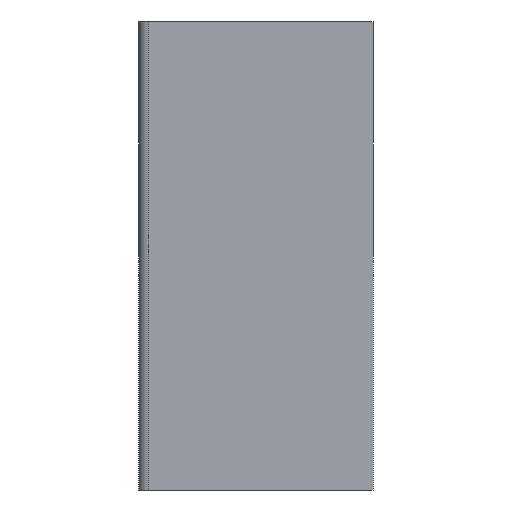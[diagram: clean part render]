
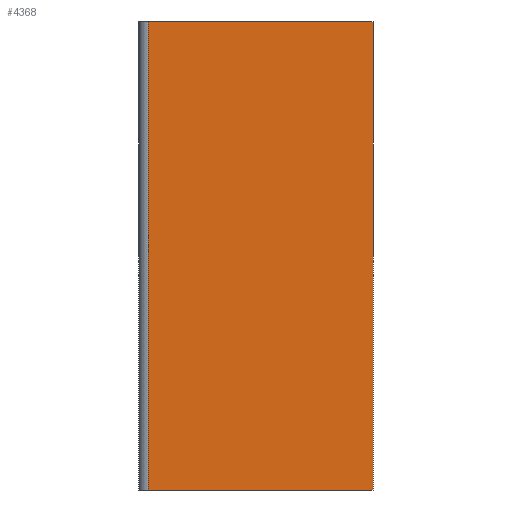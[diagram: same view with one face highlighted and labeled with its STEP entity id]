
A CAD part, left-side view. The second image highlights one B-rep face of the part: STEP entity #4368.
In plain terms, the highlighted planar face has unit normal (-1, 0, 0).
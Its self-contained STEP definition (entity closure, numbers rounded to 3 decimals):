
#9 = LINE ( 'NONE', #10, #11 ) ;
#10 = CARTESIAN_POINT ( 'NONE',  ( -122.5, 0., 50. ) ) ;
#11 = VECTOR ( 'NONE', #12, 1000. ) ;
#12 = DIRECTION ( 'NONE',  ( 0., 0., -1. ) ) ;
#2474 = CARTESIAN_POINT ( 'NONE',  ( -122.5, 24., 0. ) ) ;
#3127 = VERTEX_POINT ( 'NONE', #6954 ) ;
#3161 = EDGE_CURVE ( 'NONE', #3127, #3835, #7080, .T. ) ;
#3835 = VERTEX_POINT ( 'NONE', #2474 ) ;
#4081 = ORIENTED_EDGE ( 'NONE', *, *, #4538, .F. ) ;
#4163 = VERTEX_POINT ( 'NONE', #5805 ) ;
#4196 = EDGE_CURVE ( 'NONE', #3835, #4163, #5904, .T. ) ;
#4244 = ORIENTED_EDGE ( 'NONE', *, *, #4196, .T. ) ;
#4308 = ORIENTED_EDGE ( 'NONE', *, *, #3161, .T. ) ;
#4340 = EDGE_LOOP ( 'NONE', ( #4244, #4081, #4426, #4308 ) ) ;
#4368 = ADVANCED_FACE ( 'NONE', ( #6569 ), #6570, .F. ) ;
#4379 = EDGE_CURVE ( 'NONE', #3127, #4505, #6598, .T. ) ;
#4426 = ORIENTED_EDGE ( 'NONE', *, *, #4379, .F. ) ;
#4505 = VERTEX_POINT ( 'NONE', #7087 ) ;
#4538 = EDGE_CURVE ( 'NONE', #4505, #4163, #9, .T. ) ;
#5805 = CARTESIAN_POINT ( 'NONE',  ( -122.5, 0., 0. ) ) ;
#5904 = LINE ( 'NONE', #5905, #5906 ) ;
#5905 = CARTESIAN_POINT ( 'NONE',  ( -122.5, 0., 0. ) ) ;
#5906 = VECTOR ( 'NONE', #5907, 1000. ) ;
#5907 = DIRECTION ( 'NONE',  ( 0., -1., 0. ) ) ;
#6569 = FACE_OUTER_BOUND ( 'NONE', #4340, .T. ) ;
#6570 = PLANE ( 'NONE',  #6571 ) ;
#6571 = AXIS2_PLACEMENT_3D ( 'NONE', #6572, #6573, #6574 ) ;
#6572 = CARTESIAN_POINT ( 'NONE',  ( -122.5, 0., 50. ) ) ;
#6573 = DIRECTION ( 'NONE',  ( 1., 0., 0. ) ) ;
#6574 = DIRECTION ( 'NONE',  ( 0., 0., -1. ) ) ;
#6598 = LINE ( 'NONE', #6599, #6600 ) ;
#6599 = CARTESIAN_POINT ( 'NONE',  ( -122.5, 0., 50. ) ) ;
#6600 = VECTOR ( 'NONE', #6601, 1000. ) ;
#6601 = DIRECTION ( 'NONE',  ( 0., -1., 0. ) ) ;
#6954 = CARTESIAN_POINT ( 'NONE',  ( -122.5, 24., 50. ) ) ;
#7080 = LINE ( 'NONE', #7081, #7082 ) ;
#7081 = CARTESIAN_POINT ( 'NONE',  ( -122.5, 24., 50. ) ) ;
#7082 = VECTOR ( 'NONE', #7086, 1000. ) ;
#7086 = DIRECTION ( 'NONE',  ( 0., 0., -1. ) ) ;
#7087 = CARTESIAN_POINT ( 'NONE',  ( -122.5, 0., 50. ) ) ;
